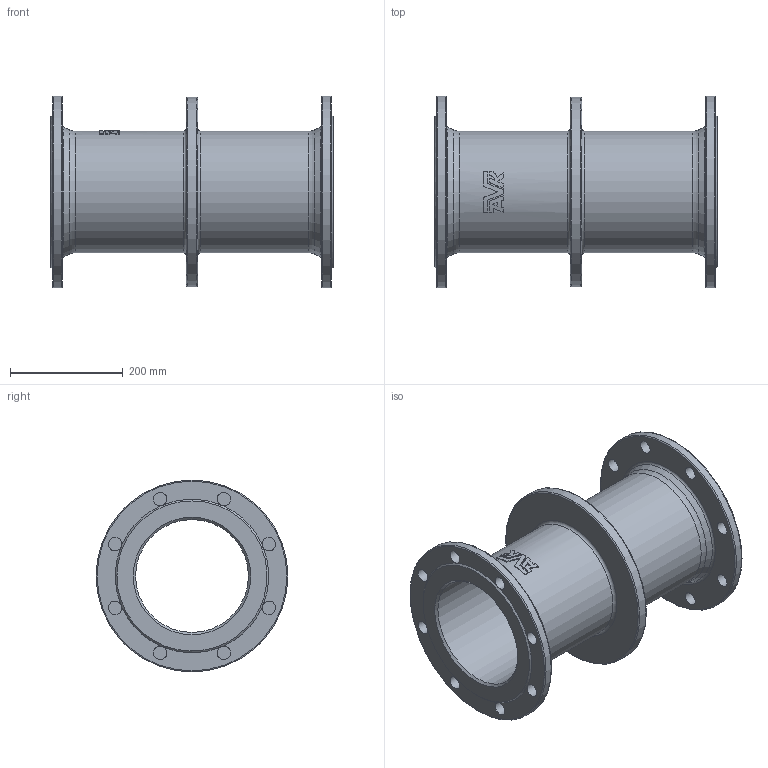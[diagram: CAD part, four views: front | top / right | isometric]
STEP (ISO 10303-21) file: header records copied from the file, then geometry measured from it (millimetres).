
FILE_DESCRIPTION (( 'STEP AP203' ), '1' );
FILE_NAME ('O_712_6010_DN200_0_AA0.step', '2019-07-09T09:32:17', ( 'Windows User' ), ( 'AVK' ), 'SwSTEP 2.0', 'SolidWorks 2012', '' );
FILE_SCHEMA (( 'CONFIG_CONTROL_DESIGN' ));
Length unit declared in the file: millimetre
Products named in the file (1): O_712_6010_DN200_0_AA0
Bounding box: 500 x 340 x 340 mm (x, y, z)
Volume: 5441901.6 mm3; surface area: 988333.9 mm2
Topology: 1 solids, 1 shells, 89 faces, 271 edges, 177 vertices
Faces by surface type: plane 28, cylinder 26, bspline 17, torus 12, cone 6
Full cylindrical faces by diameter (mm): 24 x16, 200 x1, 215 x2, 335.079 x1, 340 x2
Entity records: 3556 total; most frequent: CARTESIAN_POINT 1430, ORIENTED_EDGE 410, DIRECTION 382, EDGE_CURVE 205, AXIS2_PLACEMENT_3D 183, EDGE_LOOP 157, VERTEX_POINT 152, FACE_OUTER_BOUND 123
